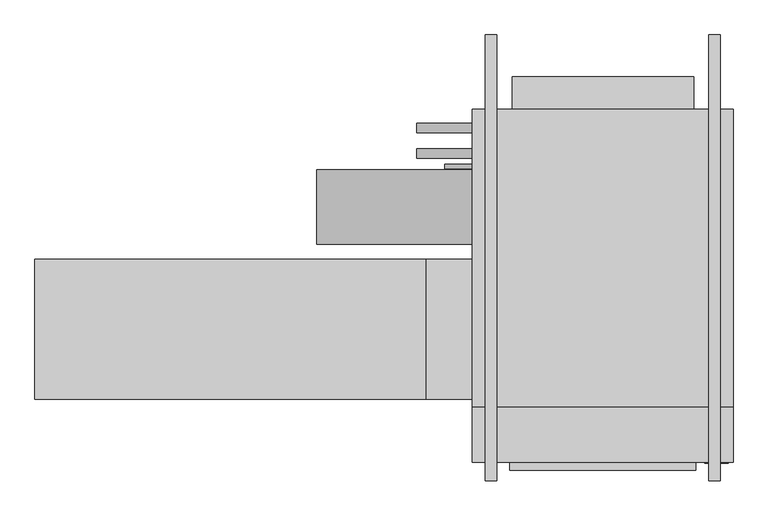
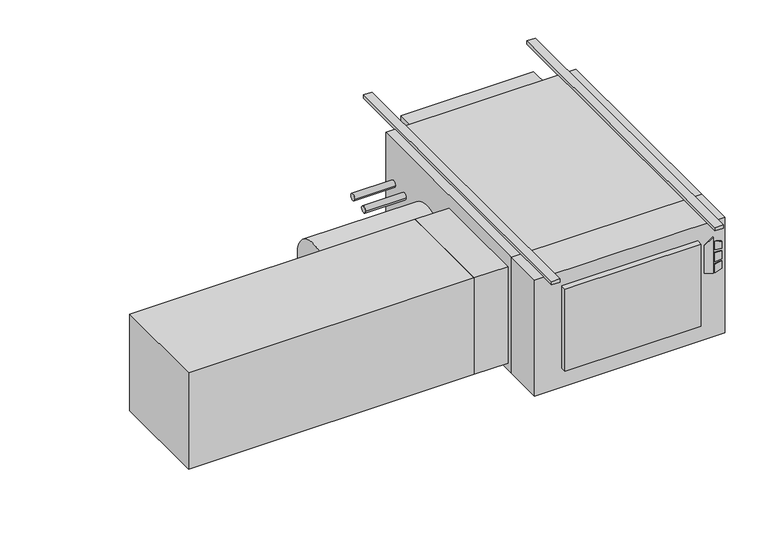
"""IFC4 building model written with IfcOpenShell, lengths in millimetres: proxy geometry."""

from ifc_helpers import new_model, si_unit, point, frame, frame_2d, origin, origin_with_axes, place, context, project, spatial, polyline, circle_curve, trimmed, segment, composite_curve, outline, extrude, source, transform, mapped, element, save


def mechanical_equipment_2829a383(model_context):
    return source(origin(), model_context, "Body", "SweptSolid", [
        extrude(outline(polyline([(-193.2519297, 430.2868862), (-203.2, 462.4602728), (-61.0290756, 462.4602728), (-84.0510817, 430.2868862), (-193.2519297, 430.2868862)])), frame((0.0, -797.052, 0.0), z_axis=(0.0, 1.0, 0.0), x_axis=(0.0, 0.0, 1.0)), (0.0, 0.0, 1.0), 3.175),
        extrude(outline(polyline([(-114.2526443, 469.2186058), (-117.4550368, 495.3), (-88.2261958, 495.3), (-80.1617807, 469.2186058), (-114.2526443, 469.2186058)])), frame((0.0, -797.052, 0.0), z_axis=(0.0, 1.0, 0.0), x_axis=(0.0, 0.0, 1.0)), (0.0, 0.0, 1.0), 3.175),
        extrude(outline(polyline([(-166.1161712, 495.3), (-169.7816721, 469.2186058), (-203.2, 469.2186058), (-194.5657628, 495.3), (-166.1161712, 495.3)])), frame((0.0, -797.052, 0.0), z_axis=(0.0, 1.0, 0.0), x_axis=(0.0, 0.0, 1.0)), (0.0, 0.0, 1.0), 3.175),
        extrude(outline(polyline([(-126.8010097, 495.3), (-124.5191834, 469.2186058), (-160.4567319, 469.2186058), (-157.7154669, 495.3), (-126.8010097, 495.3)])), frame((0.0, -797.052, 0.0), z_axis=(0.0, 1.0, 0.0), x_axis=(0.0, 0.0, 1.0)), (0.0, 0.0, 1.0), 3.175),
        extrude(outline(polyline([(508.0, -793.877), (-203.2, -793.877), (-203.2, -644.525), (508.0, -644.525), (508.0, -793.877)])), frame((0.0, 0.0, -457.2), z_axis=(0.0, 0.0, 1.0), x_axis=(1.0, 0.0, 0.0)), (0.0, 0.0, 1.0), 457.2),
        extrude(outline(polyline([(406.4, -816.229), (-101.6, -816.229), (-101.6, -793.877), (406.4, -793.877), (406.4, -816.229)])), frame((0.0, 0.0, -381.0), z_axis=(0.0, 0.0, 1.0), x_axis=(1.0, 0.0, 0.0)), (0.0, 0.0, 1.0), 323.85),
        extrude(outline(polyline([(-1397.0, -622.3), (-1397.0, -241.3), (-330.2, -241.3), (-330.2, -622.3), (-1397.0, -622.3)])), frame((0.0, 0.0, -431.8), z_axis=(0.0, 0.0, 1.0), x_axis=(1.0, 0.0, 0.0)), (0.0, 0.0, 1.0), 381.0),
        extrude(outline(polyline([(-203.2, -241.3), (-203.2, -622.3), (-330.2, -622.3), (-330.2, -241.3), (-203.2, -241.3)])), frame((0.0, 0.0, -431.8), z_axis=(0.0, 0.0, 1.0), x_axis=(1.0, 0.0, 0.0)), (0.0, 0.0, 1.0), 381.0),
        extrude(outline(composite_curve([segment(trimmed(circle_curve(frame_2d((-98.4896516, -228.6360165)), 101.6), [point((-200.0896516, -228.6360165))], [point((3.1103484, -228.6360165))], False, "CARTESIAN"), True, "CONTINUOUS"), segment(trimmed(circle_curve(frame_2d((-98.4896516, -228.6360165)), 101.6), [point((3.1103484, -228.6360165))], [point((-200.0896516, -228.6360165))], False, "CARTESIAN"), True, "CONTINUOUS")], self_intersect=False)), frame((-628.65, 0.0, 0.0), z_axis=(1.0, 0.0, 0.0), x_axis=(0.0, 1.0, 0.0)), (0.0, 0.0, 1.0), 425.45),
        extrude(outline(composite_curve([segment(trimmed(circle_curve(frame_2d((47.625, -177.8)), 12.7), [point((34.925, -177.8))], [point((60.325, -177.8))], False, "CARTESIAN"), True, "CONTINUOUS"), segment(trimmed(circle_curve(frame_2d((47.625, -177.8)), 12.7), [point((60.325, -177.8))], [point((34.925, -177.8))], False, "CARTESIAN"), True, "CONTINUOUS")], self_intersect=False)), frame((-355.6, 0.0, 0.0), z_axis=(1.0, 0.0, 0.0), x_axis=(0.0, 1.0, 0.0)), (0.0, 0.0, 1.0), 152.4),
        extrude(outline(composite_curve([segment(trimmed(circle_curve(frame_2d((117.475, -171.45)), 12.7), [point((104.775, -171.45))], [point((130.175, -171.45))], False, "CARTESIAN"), True, "CONTINUOUS"), segment(trimmed(circle_curve(frame_2d((117.475, -171.45)), 12.7), [point((130.175, -171.45))], [point((104.775, -171.45))], False, "CARTESIAN"), True, "CONTINUOUS")], self_intersect=False)), frame((-355.6, 0.0, 0.0), z_axis=(1.0, 0.0, 0.0), x_axis=(0.0, 1.0, 0.0)), (0.0, 0.0, 1.0), 152.4),
        extrude(outline(composite_curve([segment(trimmed(circle_curve(frame_2d((12.7, -409.575)), 6.35), [point((6.35, -409.575))], [point((19.05, -409.575))], False, "CARTESIAN"), True, "CONTINUOUS"), segment(trimmed(circle_curve(frame_2d((12.7, -409.575)), 6.35), [point((19.05, -409.575))], [point((6.35, -409.575))], False, "CARTESIAN"), True, "CONTINUOUS")], self_intersect=False)), frame((-279.4, 0.0, 0.0), z_axis=(1.0, 0.0, 0.0), x_axis=(0.0, 1.0, 0.0)), (0.0, 0.0, 1.0), 76.2),
        extrude(outline(polyline([(508.0, 168.275), (508.0, -644.525), (-203.2, -644.525), (-203.2, 168.275), (508.0, 168.275)])), frame((0.0, 0.0, -457.2), z_axis=(0.0, 0.0, 1.0), x_axis=(1.0, 0.0, 0.0)), (0.0, 0.0, 1.0), 457.2),
        extrude(outline(polyline([(-95.25, 257.175), (400.05, 257.175), (400.05, 168.275), (-95.25, 168.275), (-95.25, 257.175)])), frame((0.0, 0.0, -381.0), z_axis=(0.0, 0.0, 1.0), x_axis=(1.0, 0.0, 0.0)), (0.0, 0.0, 1.0), 355.6),
        extrude(outline(polyline([(-136.525, 371.475), (-136.525, -844.677), (-168.275, -844.677), (-168.275, 371.475), (-136.525, 371.475)])), origin_with_axes(), (0.0, 0.0, 1.0), 12.7),
        extrude(outline(polyline([(473.075, 371.475), (473.075, -844.677), (441.325, -844.677), (441.325, 371.475), (473.075, 371.475)])), origin_with_axes(), (0.0, 0.0, 1.0), 12.7),
    ])


if __name__ == "__main__":
    model = new_model("IFC4")
    model_context = context("Model", 3, world=origin())
    ifc_project = project(units=[si_unit("LENGTHUNIT", "METRE", prefix="MILLI")], contexts=[model_context])
    site = spatial("IfcSite", under=ifc_project)
    building = spatial("IfcBuilding", under=site)
    placement = place(None, origin())
    mechanical_equipment_shape = mechanical_equipment_2829a383(model_context)
    element("IfcBuildingElementProxy", 1, Name="High_Capacity_Horizontal_Cabinet_Fan_Coil_Unit_-_HTY_-_IEC_-_2 Pipe, Elec Heat_WO-Attenuator_LH Side_2022 : Size 08 - 277v/60Hz/1Ph - 8/0 Coil 6.0kW - 8\" AirIn", ObjectType="High_Capacity_Horizontal_Cabinet_Fan_Coil_Unit_-_HTY_-_IEC_-_2 Pipe, Elec Heat_WO-Attenuator_LH Side_2022 : Size 08 - 277v/60Hz/1Ph - 8/0 Coil 6.0kW - 8\" AirIn", at=placement, inside=building, context=model_context, shape_type="MappedRepresentation", body=[
        mapped(mechanical_equipment_shape, transform((0.0, 0.0, 0.0), x_axis=(1.0, 0.0, 0.0), y_axis=(0.0, 1.0, 0.0), z_axis=(0.0, 0.0, 1.0))),
    ])
    save(model, "model.ifc")
